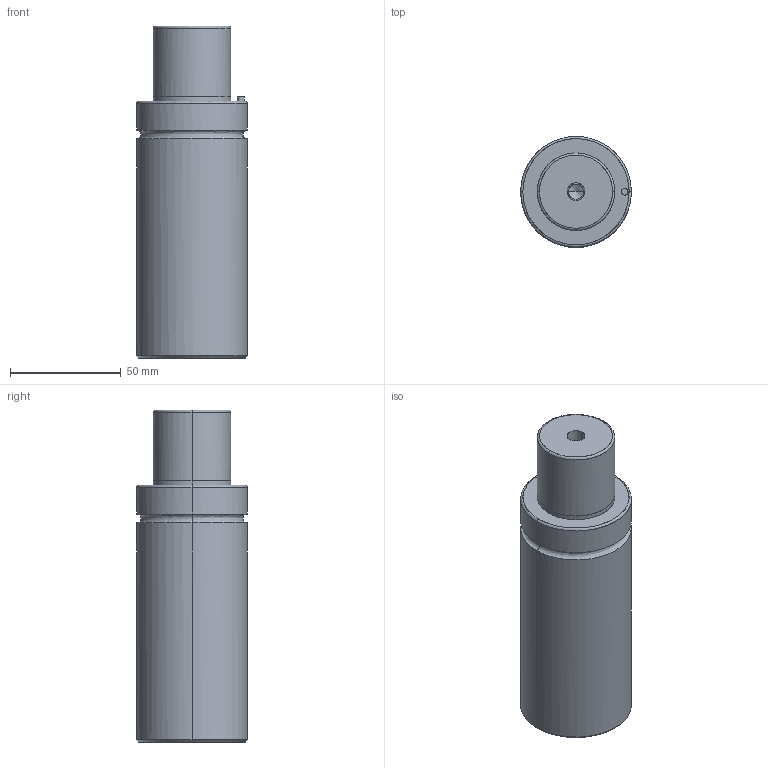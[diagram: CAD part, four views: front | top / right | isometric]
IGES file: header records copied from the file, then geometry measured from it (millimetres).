
Global section: file name: E:\UnigraphicsGraphicData\MISUMI_PRESS-PARTS\IGES\3d_gsm50-32_03914_r00.igs; native system: NX V5.0; preprocessor: UGS NX IGES V5.0; author: MISUMI; date: 20110105.160815; units: millimetre
Bounding box: 50 x 49.99 x 150 mm (x, y, z)
Surface area: 27449.1 mm2 (no closed solid volume)
Topology: 0 solids, 0 shells, 50 faces, 344 edges, 336 vertices
Faces by surface type: bspline 50
